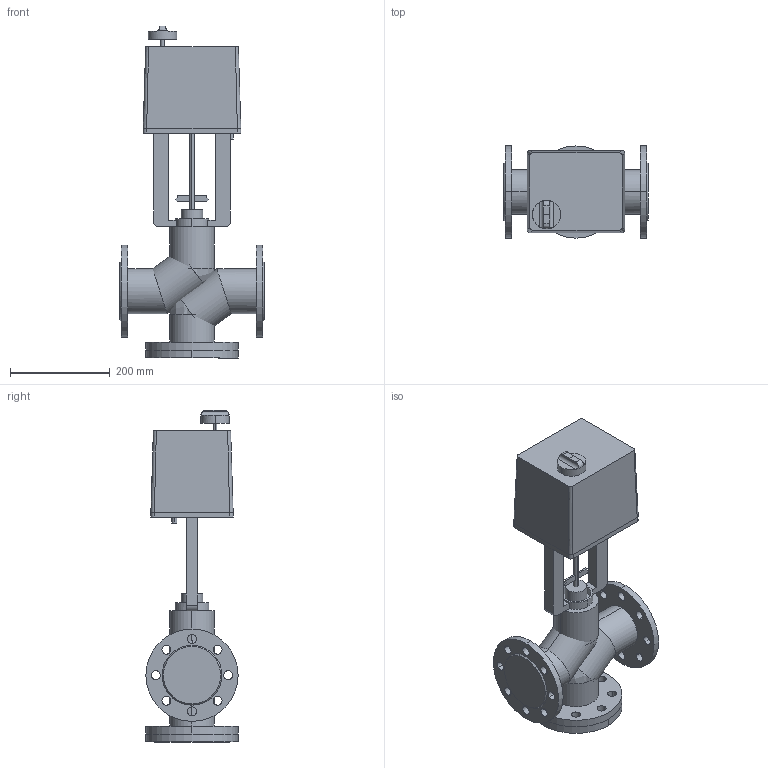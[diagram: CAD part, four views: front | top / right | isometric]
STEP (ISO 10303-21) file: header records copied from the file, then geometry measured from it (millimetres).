
FILE_DESCRIPTION(/* description */ (''),/* implementation_level */ '2;1');
FILE_NAME(/* name */ 'ТРК DN65 PN 1.6 МПа LEA 2500',/* time_stamp */ '2026-07-14T23:10:37+03:00',/* author */ (''),/* organization */ (''),/* preprocessor_version */ 'ST-DEVELOPER v20',/* originating_system */ '',/* authorisation */ '');
FILE_SCHEMA (('AP242_MANAGED_MODEL_BASED_3D_ENGINEERING_MIM_LF { 1 0 10303 442 1 1 4 }'));
Length unit declared in the file: millimetre
Products named in the file (14): TopLevelAssembly; Выдавливание; Модификатор; Модификатор_1; Выдавливание_
1; Выдавливание_
2; Вращение; Выдавливание_
3; Выдавливание_
4; 1600; Переход; Объемная геометрия 
присоединена; Полый Выдавливание; Объемная геометрия 
присоединена_1
Assembly tree (13 placements, depth 2):
  TopLevelAssembly
    Выдавливание
    Модификатор
    Модификатор_1
    Выдавливание_
1
    Выдавливание_
2
    Вращение
    Выдавливание_
3
    Выдавливание_
4
    1600
    Переход
    Объемная геометрия 
присоединена
    Полый Выдавливание
    Объемная геометрия 
присоединена_1
Bounding box: 290 x 185 x 666 mm (x, y, z)
Volume: 10587935.1 mm3; surface area: 820080.5 mm2
Topology: 18 solids, 18 shells, 186 faces, 444 edges, 290 vertices
Faces by surface type: cylinder 96, plane 76, bspline 10, cone 4
Entity records: 6231 total; most frequent: CARTESIAN_POINT 1235, DIRECTION 1052, ORIENTED_EDGE 872, EDGE_CURVE 436, AXIS2_PLACEMENT_3D 425, VERTEX_POINT 290, EDGE_LOOP 244, CIRCLE 214
